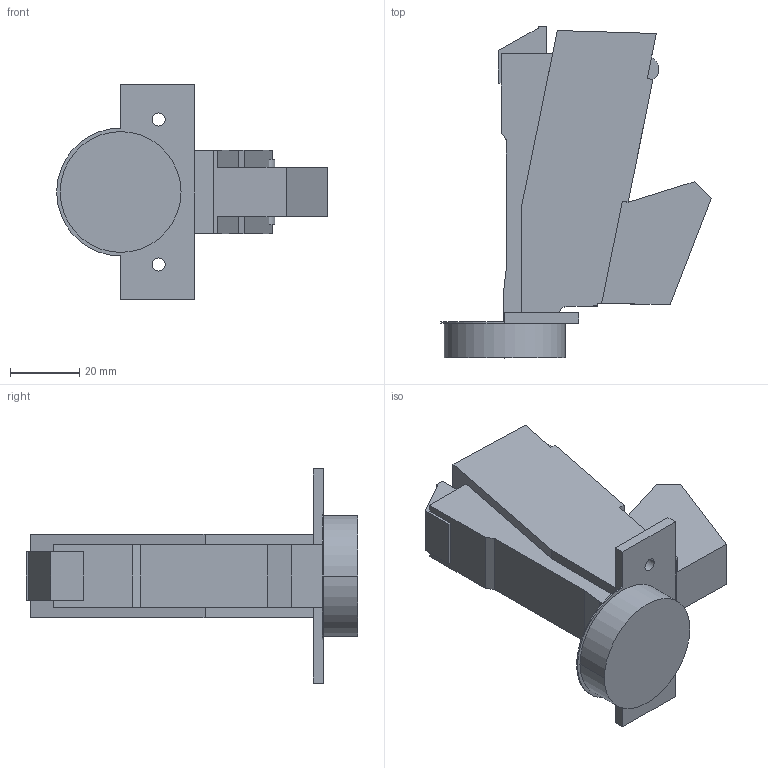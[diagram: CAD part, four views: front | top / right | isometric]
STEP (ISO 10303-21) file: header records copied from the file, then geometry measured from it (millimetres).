
FILE_DESCRIPTION (( 'STEP AP214' ), '1' );
FILE_NAME ('Scharnier TT Click-on 160° G_BB, K03.step', '2010-12-13T10:17:28', ( 'grass' ), ( '' ), 'SwSTEP 2.0', 'SolidWorks 2010', '' );
FILE_SCHEMA (( 'AUTOMOTIVE_DESIGN' ));
Length unit declared in the file: millimetre
Products named in the file (1): Scharnier TT Click-on 160° G_BB, K03
Bounding box: 78.34 x 96.09 x 62 mm (x, y, z)
Volume: 91411.1 mm3; surface area: 18584 mm2
Topology: 1 solids, 1 shells, 58 faces, 161 edges, 106 vertices
Faces by surface type: plane 49, cylinder 9
Entity records: 1873 total; most frequent: CARTESIAN_POINT 326, ORIENTED_EDGE 322, DIRECTION 297, EDGE_CURVE 161, VECTOR 143, LINE 143, VERTEX_POINT 106, AXIS2_PLACEMENT_3D 77
